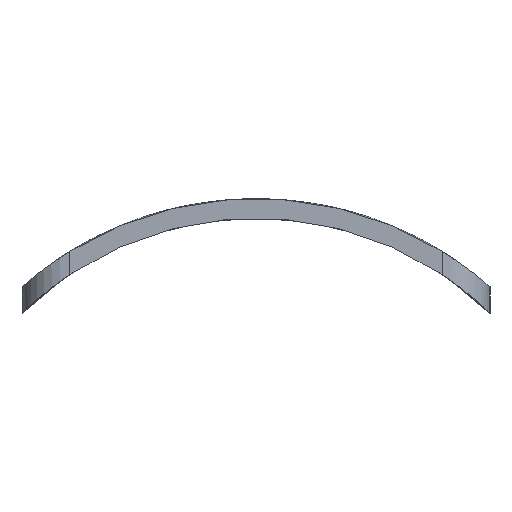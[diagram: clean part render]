
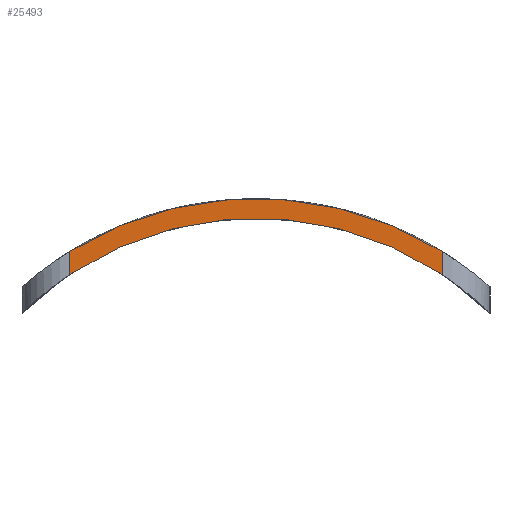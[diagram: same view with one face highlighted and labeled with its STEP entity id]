
A CAD part, left-side view. The second image highlights one B-rep face of the part: STEP entity #25493.
In plain terms, the highlighted planar face has unit normal (-1, 0, 0).
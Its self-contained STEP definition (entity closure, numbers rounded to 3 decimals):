
#22 = VERTEX_POINT('',#23);
#23 = CARTESIAN_POINT('',(236.3,10.5,17.022));
#61 = CYLINDRICAL_SURFACE('',#62,20.);
#62 = AXIS2_PLACEMENT_3D('',#63,#64,#65);
#63 = CARTESIAN_POINT('',(235.,0.,0.));
#64 = DIRECTION('',(1.,0.,0.));
#65 = DIRECTION('',(-0.,0.,1.));
#102 = CYLINDRICAL_SURFACE('',#103,2.7);
#103 = AXIS2_PLACEMENT_3D('',#104,#105,#106);
#104 = CARTESIAN_POINT('',(239.,10.5,5.));
#105 = DIRECTION('',(0.,0.,1.));
#106 = DIRECTION('',(-1.,-0.,0.));
#143 = EDGE_CURVE('',#22,#144,#146,.T.);
#144 = VERTEX_POINT('',#145);
#145 = CARTESIAN_POINT('',(236.3,-10.5,17.022));
#146 = SURFACE_CURVE('',#147,(#152,#159),.PCURVE_S1.);
#147 = CIRCLE('',#148,20.);
#148 = AXIS2_PLACEMENT_3D('',#149,#150,#151);
#149 = CARTESIAN_POINT('',(236.3,0.,0.));
#150 = DIRECTION('',(1.,0.,0.));
#151 = DIRECTION('',(-0.,0.525,0.851));
#152 = PCURVE('',#61,#153);
#153 = DEFINITIONAL_REPRESENTATION('',(#154),#158);
#154 = LINE('',#155,#156);
#155 = CARTESIAN_POINT('',(5.73,1.3));
#156 = VECTOR('',#157,1.);
#157 = DIRECTION('',(1.,0.));
#158 = ( GEOMETRIC_REPRESENTATION_CONTEXT(2) 
PARAMETRIC_REPRESENTATION_CONTEXT() REPRESENTATION_CONTEXT('2D SPACE',''
  ) );
#159 = PCURVE('',#160,#165);
#160 = PLANE('',#161);
#161 = AXIS2_PLACEMENT_3D('',#162,#163,#164);
#162 = CARTESIAN_POINT('',(236.3,-13.2,5.));
#163 = DIRECTION('',(1.,0.,0.));
#164 = DIRECTION('',(0.,0.,1.));
#165 = DEFINITIONAL_REPRESENTATION('',(#166),#170);
#166 = CIRCLE('',#167,20.);
#167 = AXIS2_PLACEMENT_2D('',#168,#169);
#168 = CARTESIAN_POINT('',(-5.,-13.2));
#169 = DIRECTION('',(0.851,-0.525));
#170 = ( GEOMETRIC_REPRESENTATION_CONTEXT(2) 
PARAMETRIC_REPRESENTATION_CONTEXT() REPRESENTATION_CONTEXT('2D SPACE',''
  ) );
#246 = CYLINDRICAL_SURFACE('',#247,2.7);
#247 = AXIS2_PLACEMENT_3D('',#248,#249,#250);
#248 = CARTESIAN_POINT('',(239.,-10.5,5.));
#249 = DIRECTION('',(0.,0.,1.));
#250 = DIRECTION('',(-1.,-0.,0.));
#16121 = CYLINDRICAL_SURFACE('',#16122,18.9);
#16122 = AXIS2_PLACEMENT_3D('',#16123,#16124,#16125);
#16123 = CARTESIAN_POINT('',(234.,0.,0.));
#16124 = DIRECTION('',(1.,0.,0.));
#16125 = DIRECTION('',(-0.,0.,1.));
#16187 = VERTEX_POINT('',#16188);
#16188 = CARTESIAN_POINT('',(236.3,10.5,15.715));
#16298 = EDGE_CURVE('',#16187,#16299,#16301,.T.);
#16299 = VERTEX_POINT('',#16300);
#16300 = CARTESIAN_POINT('',(236.3,-10.5,15.715));
#16301 = SURFACE_CURVE('',#16302,(#16307,#16314),.PCURVE_S1.);
#16302 = CIRCLE('',#16303,18.9);
#16303 = AXIS2_PLACEMENT_3D('',#16304,#16305,#16306);
#16304 = CARTESIAN_POINT('',(236.3,0.,0.));
#16305 = DIRECTION('',(1.,0.,0.));
#16306 = DIRECTION('',(-0.,0.556,0.831));
#16307 = PCURVE('',#16121,#16308);
#16308 = DEFINITIONAL_REPRESENTATION('',(#16309),#16313);
#16309 = LINE('',#16310,#16311);
#16310 = CARTESIAN_POINT('',(5.694,2.3));
#16311 = VECTOR('',#16312,1.);
#16312 = DIRECTION('',(1.,0.));
#16313 = ( GEOMETRIC_REPRESENTATION_CONTEXT(2) 
PARAMETRIC_REPRESENTATION_CONTEXT() REPRESENTATION_CONTEXT('2D SPACE',''
  ) );
#16314 = PCURVE('',#160,#16315);
#16315 = DEFINITIONAL_REPRESENTATION('',(#16316),#16320);
#16316 = CIRCLE('',#16317,18.9);
#16317 = AXIS2_PLACEMENT_2D('',#16318,#16319);
#16318 = CARTESIAN_POINT('',(-5.,-13.2));
#16319 = DIRECTION('',(0.831,-0.556));
#16320 = ( GEOMETRIC_REPRESENTATION_CONTEXT(2) 
PARAMETRIC_REPRESENTATION_CONTEXT() REPRESENTATION_CONTEXT('2D SPACE',''
  ) );
#25470 = EDGE_CURVE('',#16299,#144,#25471,.T.);
#25471 = SURFACE_CURVE('',#25472,(#25476,#25483),.PCURVE_S1.);
#25472 = LINE('',#25473,#25474);
#25473 = CARTESIAN_POINT('',(236.3,-10.5,5.));
#25474 = VECTOR('',#25475,1.);
#25475 = DIRECTION('',(0.,0.,1.));
#25476 = PCURVE('',#246,#25477);
#25477 = DEFINITIONAL_REPRESENTATION('',(#25478),#25482);
#25478 = LINE('',#25479,#25480);
#25479 = CARTESIAN_POINT('',(0.,0.));
#25480 = VECTOR('',#25481,1.);
#25481 = DIRECTION('',(0.,1.));
#25482 = ( GEOMETRIC_REPRESENTATION_CONTEXT(2) 
PARAMETRIC_REPRESENTATION_CONTEXT() REPRESENTATION_CONTEXT('2D SPACE',''
  ) );
#25483 = PCURVE('',#160,#25484);
#25484 = DEFINITIONAL_REPRESENTATION('',(#25485),#25489);
#25485 = LINE('',#25486,#25487);
#25486 = CARTESIAN_POINT('',(0.,-2.7));
#25487 = VECTOR('',#25488,1.);
#25488 = DIRECTION('',(1.,0.));
#25489 = ( GEOMETRIC_REPRESENTATION_CONTEXT(2) 
PARAMETRIC_REPRESENTATION_CONTEXT() REPRESENTATION_CONTEXT('2D SPACE',''
  ) );
#25493 = ADVANCED_FACE('',(#25494),#160,.F.);
#25494 = FACE_BOUND('',#25495,.F.);
#25495 = EDGE_LOOP('',(#25496,#25497,#25498,#25499));
#25496 = ORIENTED_EDGE('',*,*,#143,.T.);
#25497 = ORIENTED_EDGE('',*,*,#25470,.F.);
#25498 = ORIENTED_EDGE('',*,*,#16298,.F.);
#25499 = ORIENTED_EDGE('',*,*,#25500,.T.);
#25500 = EDGE_CURVE('',#16187,#22,#25501,.T.);
#25501 = SURFACE_CURVE('',#25502,(#25506,#25513),.PCURVE_S1.);
#25502 = LINE('',#25503,#25504);
#25503 = CARTESIAN_POINT('',(236.3,10.5,5.));
#25504 = VECTOR('',#25505,1.);
#25505 = DIRECTION('',(0.,0.,1.));
#25506 = PCURVE('',#160,#25507);
#25507 = DEFINITIONAL_REPRESENTATION('',(#25508),#25512);
#25508 = LINE('',#25509,#25510);
#25509 = CARTESIAN_POINT('',(0.,-23.7));
#25510 = VECTOR('',#25511,1.);
#25511 = DIRECTION('',(1.,0.));
#25512 = ( GEOMETRIC_REPRESENTATION_CONTEXT(2) 
PARAMETRIC_REPRESENTATION_CONTEXT() REPRESENTATION_CONTEXT('2D SPACE',''
  ) );
#25513 = PCURVE('',#102,#25514);
#25514 = DEFINITIONAL_REPRESENTATION('',(#25515),#25519);
#25515 = LINE('',#25516,#25517);
#25516 = CARTESIAN_POINT('',(-0.,0.));
#25517 = VECTOR('',#25518,1.);
#25518 = DIRECTION('',(-0.,1.));
#25519 = ( GEOMETRIC_REPRESENTATION_CONTEXT(2) 
PARAMETRIC_REPRESENTATION_CONTEXT() REPRESENTATION_CONTEXT('2D SPACE',''
  ) );
